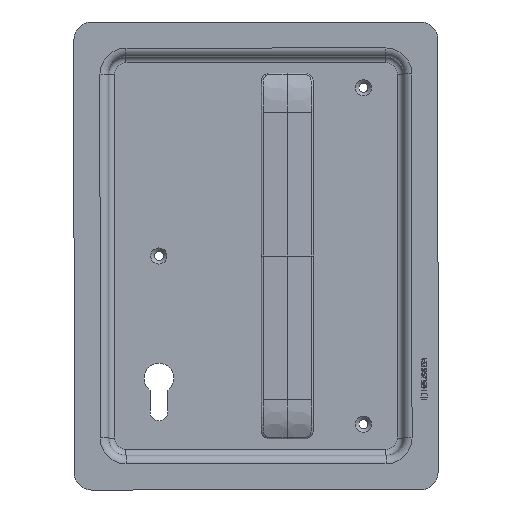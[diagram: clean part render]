
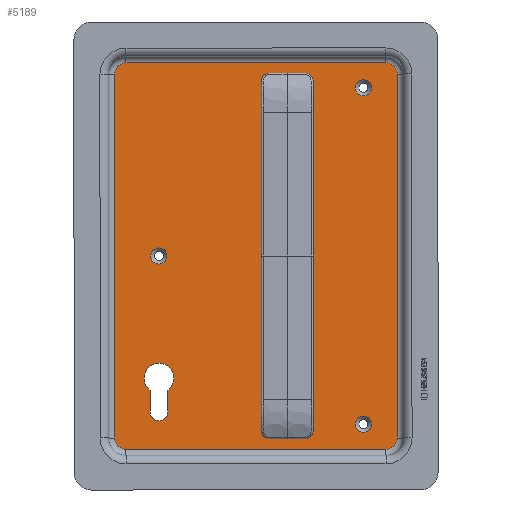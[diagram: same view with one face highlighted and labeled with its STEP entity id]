
A CAD part, front view. The second image highlights one B-rep face of the part: STEP entity #5189.
In plain terms, the highlighted planar face has unit normal (0, -1, 0) as drawn and (0, 0, -1) by its records, which use the part's own axes.
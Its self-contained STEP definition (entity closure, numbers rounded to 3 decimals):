
#388=FACE_BOUND('',#948,.T.);
#389=FACE_BOUND('',#949,.T.);
#390=FACE_BOUND('',#950,.T.);
#391=FACE_BOUND('',#951,.T.);
#392=FACE_BOUND('',#952,.T.);
#393=FACE_BOUND('',#953,.T.);
#394=FACE_BOUND('',#954,.T.);
#395=FACE_BOUND('',#955,.T.);
#514=PLANE('',#5608);
#639=FACE_OUTER_BOUND('',#947,.T.);
#947=EDGE_LOOP('',(#3592,#3593,#3594,#3595,#3596,#3597,#3598,#3599));
#948=EDGE_LOOP('',(#3600,#3601,#3602,#3603));
#949=EDGE_LOOP('',(#3604));
#950=EDGE_LOOP('',(#3605));
#951=EDGE_LOOP('',(#3606));
#952=EDGE_LOOP('',(#3607));
#953=EDGE_LOOP('',(#3608));
#954=EDGE_LOOP('',(#3609));
#955=EDGE_LOOP('',(#3610));
#1286=LINE('',#7163,#1711);
#1290=LINE('',#7173,#1715);
#1296=LINE('',#7207,#1721);
#1297=LINE('',#7211,#1722);
#1298=LINE('',#7215,#1723);
#1299=LINE('',#7219,#1724);
#1711=VECTOR('',#5978,10.);
#1715=VECTOR('',#5990,10.);
#1721=VECTOR('',#6028,10.);
#1722=VECTOR('',#6031,10.);
#1723=VECTOR('',#6034,10.);
#1724=VECTOR('',#6037,10.);
#2134=CIRCLE('',#5587,8.6);
#2136=CIRCLE('',#5591,5.1);
#2137=CIRCLE('',#5594,2.75);
#2139=CIRCLE('',#5597,2.75);
#2141=CIRCLE('',#5600,2.75);
#2143=CIRCLE('',#5603,2.75);
#2145=CIRCLE('',#5606,4.65);
#2147=CIRCLE('',#5609,6.5);
#2148=CIRCLE('',#5610,6.5);
#2149=CIRCLE('',#5611,6.5);
#2150=CIRCLE('',#5612,6.5);
#2151=CIRCLE('',#5613,4.65);
#2152=CIRCLE('',#5614,4.65);
#2267=VERTEX_POINT('',#7154);
#2268=VERTEX_POINT('',#7156);
#2270=VERTEX_POINT('',#7162);
#2272=VERTEX_POINT('',#7168);
#2273=VERTEX_POINT('',#7175);
#2275=VERTEX_POINT('',#7181);
#2277=VERTEX_POINT('',#7187);
#2279=VERTEX_POINT('',#7193);
#2281=VERTEX_POINT('',#7199);
#2283=VERTEX_POINT('',#7205);
#2284=VERTEX_POINT('',#7206);
#2285=VERTEX_POINT('',#7208);
#2286=VERTEX_POINT('',#7210);
#2287=VERTEX_POINT('',#7212);
#2288=VERTEX_POINT('',#7214);
#2289=VERTEX_POINT('',#7216);
#2290=VERTEX_POINT('',#7218);
#2291=VERTEX_POINT('',#7221);
#2292=VERTEX_POINT('',#7223);
#2772=EDGE_CURVE('',#2268,#2267,#2134,.T.);
#2775=EDGE_CURVE('',#2270,#2268,#1286,.T.);
#2778=EDGE_CURVE('',#2272,#2270,#2136,.T.);
#2781=EDGE_CURVE('',#2267,#2272,#1290,.T.);
#2782=EDGE_CURVE('',#2273,#2273,#2137,.T.);
#2785=EDGE_CURVE('',#2275,#2275,#2139,.T.);
#2788=EDGE_CURVE('',#2277,#2277,#2141,.T.);
#2791=EDGE_CURVE('',#2279,#2279,#2143,.T.);
#2794=EDGE_CURVE('',#2281,#2281,#2145,.T.);
#2797=EDGE_CURVE('',#2283,#2284,#1296,.T.);
#2798=EDGE_CURVE('',#2284,#2285,#2147,.T.);
#2799=EDGE_CURVE('',#2285,#2286,#1297,.T.);
#2800=EDGE_CURVE('',#2286,#2287,#2148,.T.);
#2801=EDGE_CURVE('',#2287,#2288,#1298,.T.);
#2802=EDGE_CURVE('',#2288,#2289,#2149,.T.);
#2803=EDGE_CURVE('',#2289,#2290,#1299,.T.);
#2804=EDGE_CURVE('',#2290,#2283,#2150,.T.);
#2805=EDGE_CURVE('',#2291,#2291,#2151,.T.);
#2806=EDGE_CURVE('',#2292,#2292,#2152,.T.);
#3592=ORIENTED_EDGE('',*,*,#2797,.T.);
#3593=ORIENTED_EDGE('',*,*,#2798,.T.);
#3594=ORIENTED_EDGE('',*,*,#2799,.T.);
#3595=ORIENTED_EDGE('',*,*,#2800,.T.);
#3596=ORIENTED_EDGE('',*,*,#2801,.T.);
#3597=ORIENTED_EDGE('',*,*,#2802,.T.);
#3598=ORIENTED_EDGE('',*,*,#2803,.T.);
#3599=ORIENTED_EDGE('',*,*,#2804,.T.);
#3600=ORIENTED_EDGE('',*,*,#2778,.T.);
#3601=ORIENTED_EDGE('',*,*,#2775,.T.);
#3602=ORIENTED_EDGE('',*,*,#2772,.T.);
#3603=ORIENTED_EDGE('',*,*,#2781,.T.);
#3604=ORIENTED_EDGE('',*,*,#2782,.T.);
#3605=ORIENTED_EDGE('',*,*,#2785,.T.);
#3606=ORIENTED_EDGE('',*,*,#2788,.T.);
#3607=ORIENTED_EDGE('',*,*,#2791,.T.);
#3608=ORIENTED_EDGE('',*,*,#2805,.F.);
#3609=ORIENTED_EDGE('',*,*,#2806,.F.);
#3610=ORIENTED_EDGE('',*,*,#2794,.F.);
#5189=ADVANCED_FACE('',(#639,#388,#389,#390,#391,#392,#393,#394,#395),#514, .F.);
#5587=AXIS2_PLACEMENT_3D('',#7157,#5972,#5973);
#5591=AXIS2_PLACEMENT_3D('',#7169,#5984,#5985);
#5594=AXIS2_PLACEMENT_3D('',#7176,#5993,#5994);
#5597=AXIS2_PLACEMENT_3D('',#7182,#6000,#6001);
#5600=AXIS2_PLACEMENT_3D('',#7188,#6007,#6008);
#5603=AXIS2_PLACEMENT_3D('',#7194,#6014,#6015);
#5606=AXIS2_PLACEMENT_3D('',#7200,#6021,#6022);
#5608=AXIS2_PLACEMENT_3D('',#7204,#6026,#6027);
#5609=AXIS2_PLACEMENT_3D('',#7209,#6029,#6030);
#5610=AXIS2_PLACEMENT_3D('',#7213,#6032,#6033);
#5611=AXIS2_PLACEMENT_3D('',#7217,#6035,#6036);
#5612=AXIS2_PLACEMENT_3D('',#7220,#6038,#6039);
#5613=AXIS2_PLACEMENT_3D('',#7222,#6040,#6041);
#5614=AXIS2_PLACEMENT_3D('',#7224,#6042,#6043);
#5972=DIRECTION('center_axis',(0.,0.,1.));
#5973=DIRECTION('ref_axis',(0.593,0.805,0.));
#5978=DIRECTION('',(0.,1.,0.));
#5984=DIRECTION('center_axis',(0.,0.,1.));
#5985=DIRECTION('ref_axis',(-1.,0.,0.));
#5990=DIRECTION('',(0.,-1.,0.));
#5993=DIRECTION('center_axis',(0.,0.,1.));
#5994=DIRECTION('ref_axis',(1.,0.,0.));
#6000=DIRECTION('center_axis',(0.,0.,1.));
#6001=DIRECTION('ref_axis',(1.,0.,0.));
#6007=DIRECTION('center_axis',(0.,0.,1.));
#6008=DIRECTION('ref_axis',(1.,0.,0.));
#6014=DIRECTION('center_axis',(0.,0.,1.));
#6015=DIRECTION('ref_axis',(1.,0.,0.));
#6021=DIRECTION('center_axis',(0.,0.,-1.));
#6022=DIRECTION('ref_axis',(1.,0.,0.));
#6026=DIRECTION('center_axis',(0.,0.,1.));
#6027=DIRECTION('ref_axis',(1.,0.,0.));
#6028=DIRECTION('',(-1.,0.,0.));
#6029=DIRECTION('center_axis',(0.,0.,-1.));
#6030=DIRECTION('ref_axis',(-0.707,-0.707,0.));
#6031=DIRECTION('',(0.,1.,0.));
#6032=DIRECTION('center_axis',(0.,0.,-1.));
#6033=DIRECTION('ref_axis',(-0.707,0.707,0.));
#6034=DIRECTION('',(1.,0.,0.));
#6035=DIRECTION('center_axis',(0.,0.,-1.));
#6036=DIRECTION('ref_axis',(0.707,0.707,0.));
#6037=DIRECTION('',(0.,-1.,0.));
#6038=DIRECTION('center_axis',(0.,0.,-1.));
#6039=DIRECTION('ref_axis',(0.707,-0.707,0.));
#6040=DIRECTION('center_axis',(0.,0.,-1.));
#6041=DIRECTION('ref_axis',(1.,0.,0.));
#6042=DIRECTION('center_axis',(0.,0.,-1.));
#6043=DIRECTION('ref_axis',(1.,0.,0.));
#7154=CARTESIAN_POINT('',(52.957,-78.995,-3.028));
#7156=CARTESIAN_POINT('',(63.157,-78.995,-3.028));
#7157=CARTESIAN_POINT('Origin',(58.057,-72.07,-3.028));
#7162=CARTESIAN_POINT('',(63.157,-91.57,-3.028));
#7163=CARTESIAN_POINT('',(63.157,-46.57,-3.028));
#7168=CARTESIAN_POINT('',(52.957,-91.57,-3.028));
#7169=CARTESIAN_POINT('Origin',(58.057,-91.57,-3.028));
#7173=CARTESIAN_POINT('',(52.957,-40.283,-3.028));
#7175=CARTESIAN_POINT('',(-11.193,-99.57,-3.028));
#7176=CARTESIAN_POINT('Origin',(-8.443,-99.57,-3.028));
#7181=CARTESIAN_POINT('',(-11.193,96.43,-3.028));
#7182=CARTESIAN_POINT('Origin',(-8.443,96.43,-3.028));
#7187=CARTESIAN_POINT('',(-26.193,96.43,-3.028));
#7188=CARTESIAN_POINT('Origin',(-23.443,96.43,-3.028));
#7193=CARTESIAN_POINT('',(-26.193,-99.57,-3.028));
#7194=CARTESIAN_POINT('Origin',(-23.443,-99.57,-3.028));
#7199=CARTESIAN_POINT('',(-64.593,-98.57,-3.028));
#7200=CARTESIAN_POINT('Origin',(-59.943,-98.57,-3.028));
#7204=CARTESIAN_POINT('Origin',(2.057,-1.57,-3.028));
#7205=CARTESIAN_POINT('',(77.057,-113.07,-3.028));
#7206=CARTESIAN_POINT('',(-72.943,-113.07,-3.028));
#7207=CARTESIAN_POINT('',(39.557,-113.07,-3.028));
#7208=CARTESIAN_POINT('',(-79.443,-106.57,-3.028));
#7209=CARTESIAN_POINT('Origin',(-72.943,-106.57,-3.028));
#7210=CARTESIAN_POINT('',(-79.443,103.43,-3.028));
#7211=CARTESIAN_POINT('',(-79.443,-54.07,-3.028));
#7212=CARTESIAN_POINT('',(-72.943,109.93,-3.028));
#7213=CARTESIAN_POINT('Origin',(-72.943,103.43,-3.028));
#7214=CARTESIAN_POINT('',(77.057,109.93,-3.028));
#7215=CARTESIAN_POINT('',(-35.443,109.93,-3.028));
#7216=CARTESIAN_POINT('',(83.557,103.43,-3.028));
#7217=CARTESIAN_POINT('Origin',(77.057,103.43,-3.028));
#7218=CARTESIAN_POINT('',(83.557,-106.57,-3.028));
#7219=CARTESIAN_POINT('',(83.557,50.93,-3.028));
#7220=CARTESIAN_POINT('Origin',(77.057,-106.57,-3.028));
#7221=CARTESIAN_POINT('',(-64.593,95.43,-3.028));
#7222=CARTESIAN_POINT('Origin',(-59.943,95.43,-3.028));
#7223=CARTESIAN_POINT('',(53.407,-1.57,-3.028));
#7224=CARTESIAN_POINT('Origin',(58.057,-1.57,-3.028));
